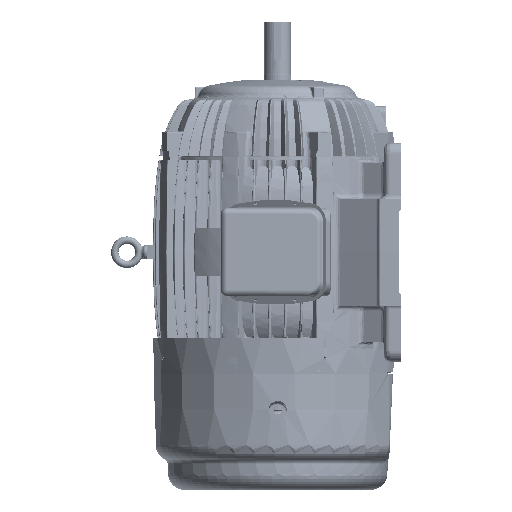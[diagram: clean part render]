
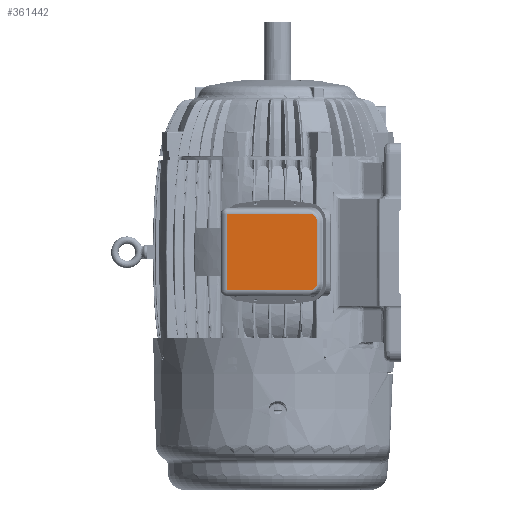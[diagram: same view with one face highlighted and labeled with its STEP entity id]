
A CAD part, left-side view. The second image highlights one B-rep face of the part: STEP entity #361442.
In plain terms, the highlighted planar face has unit normal (-1, 0, 0) as drawn and (0, 0, -1) by its records, which use the part's own axes.
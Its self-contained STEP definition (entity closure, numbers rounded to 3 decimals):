
#359087=CARTESIAN_POINT('',(-3.375,8.182,0.));
#359110=DIRECTION('',(0.,1.,0.));
#359111=VECTOR('',#359110,7.622);
#359112=CARTESIAN_POINT('',(-3.375,0.56,0.));
#359113=LINE('',#359112,#359111);
#359276=CARTESIAN_POINT('',(3.375,8.182,0.));
#359277=CARTESIAN_POINT('',(3.338,8.235,0.));
#359278=CARTESIAN_POINT('',(3.26,8.331,0.));
#359279=CARTESIAN_POINT('',(3.129,8.448,0.));
#359280=CARTESIAN_POINT('',(2.994,8.531,0.));
#359281=CARTESIAN_POINT('',(2.86,8.585,0.));
#359282=CARTESIAN_POINT('',(2.735,8.613,0.));
#359283=CARTESIAN_POINT('',(2.66,8.617,0.));
#359284=CARTESIAN_POINT('',(2.625,8.617,0.));
#359295=DIRECTION('',(1.,0.,0.));
#359296=VECTOR('',#359295,5.25);
#359297=CARTESIAN_POINT('',(-2.625,8.617,0.));
#359298=LINE('',#359297,#359296);
#359314=CARTESIAN_POINT('',(-3.375,8.182,0.));
#359315=CARTESIAN_POINT('',(-3.338,8.235,0.));
#359316=CARTESIAN_POINT('',(-3.26,8.331,0.));
#359317=CARTESIAN_POINT('',(-3.129,8.448,0.));
#359318=CARTESIAN_POINT('',(-2.994,8.531,0.));
#359319=CARTESIAN_POINT('',(-2.86,8.585,0.));
#359320=CARTESIAN_POINT('',(-2.735,8.613,0.));
#359321=CARTESIAN_POINT('',(-2.66,8.617,0.));
#359322=CARTESIAN_POINT('',(-2.625,8.617,0.));
#359329=DIRECTION('',(1.,0.,0.));
#359330=VECTOR('',#359329,6.75);
#359331=CARTESIAN_POINT('',(-3.375,0.56,0.));
#359332=LINE('',#359331,#359330);
#359463=DIRECTION('',(0.,1.,0.));
#359464=VECTOR('',#359463,7.622);
#359465=CARTESIAN_POINT('',(3.375,0.56,0.));
#359466=LINE('',#359465,#359464);
#359477=CARTESIAN_POINT('',(3.375,8.182,0.));
#359528=CARTESIAN_POINT('',(3.375,0.56,0.));
#359530=VERTEX_POINT('',#359528);
#359538=CARTESIAN_POINT('',(-3.375,0.56,0.));
#359540=VERTEX_POINT('',#359538);
#359543=VERTEX_POINT('',#359477);
#359545=VERTEX_POINT('',#359087);
#359652=VERTEX_POINT('',#359284);
#359655=CARTESIAN_POINT('',(-2.625,8.617,0.));
#359656=VERTEX_POINT('',#359655);
#361427=CARTESIAN_POINT('',(-3.935,0.56,0.));
#361428=DIRECTION('',(0.,0.,-1.));
#361429=DIRECTION('',(0.,1.,0.));
#361430=AXIS2_PLACEMENT_3D('',#361427,#361428,#361429);
#361431=PLANE('',#361430);
#361432=ORIENTED_EDGE('',*,*,#361066,.F.);
#361434=ORIENTED_EDGE('',*,*,#361433,.T.);
#361436=ORIENTED_EDGE('',*,*,#361435,.T.);
#361437=ORIENTED_EDGE('',*,*,#361353,.T.);
#361438=ORIENTED_EDGE('',*,*,#361368,.F.);
#361439=ORIENTED_EDGE('',*,*,#361421,.F.);
#361440=EDGE_LOOP('',(#361432,#361434,#361436,#361437,#361438,#361439));
#361441=FACE_OUTER_BOUND('',#361440,.F.);
#361442=ADVANCED_FACE('',(#361441),#361431,.T.);
#359285=B_SPLINE_CURVE_WITH_KNOTS('',3,(#359276,#359277,#359278,#359279,#359280,
#359281,#359282,#359283,#359284),.UNSPECIFIED.,.F.,.F.,(4,1,1,1,1,1,4),(0.,
0.167,0.333,0.5,0.667,0.833,
1.),.UNSPECIFIED.);
#359323=B_SPLINE_CURVE_WITH_KNOTS('',3,(#359314,#359315,#359316,#359317,#359318,
#359319,#359320,#359321,#359322),.UNSPECIFIED.,.F.,.F.,(4,1,1,1,1,1,4),(0.,
0.167,0.333,0.5,0.667,0.833,
1.),.UNSPECIFIED.);
#361066=EDGE_CURVE('',#359540,#359545,#359113,.T.);
#361353=EDGE_CURVE('',#359543,#359652,#359285,.T.);
#361368=EDGE_CURVE('',#359656,#359652,#359298,.T.);
#361421=EDGE_CURVE('',#359545,#359656,#359323,.T.);
#361433=EDGE_CURVE('',#359540,#359530,#359332,.T.);
#361435=EDGE_CURVE('',#359530,#359543,#359466,.T.);
